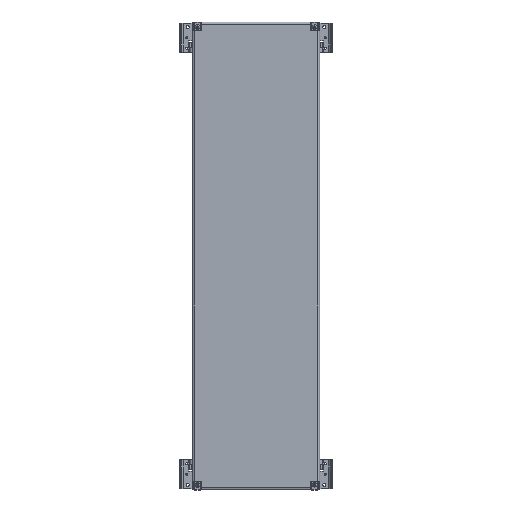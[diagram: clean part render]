
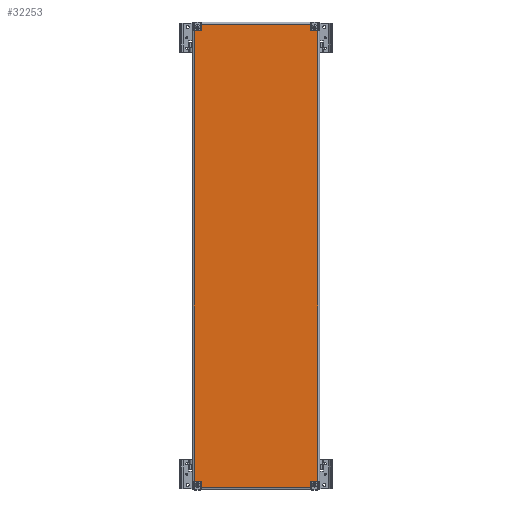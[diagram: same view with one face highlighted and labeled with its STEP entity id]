
A CAD part, top view. The second image highlights one B-rep face of the part: STEP entity #32253.
In plain terms, the highlighted planar face has unit normal (0, 0, 1).
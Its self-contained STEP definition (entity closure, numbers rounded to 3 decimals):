
#766 = DIRECTION ( 'NONE',  ( 0., 0., -1. ) ) ;
#1023 = LINE ( 'NONE', #22509, #11275 ) ;
#1085 = DIRECTION ( 'NONE',  ( 0., 0., -1. ) ) ;
#1129 = EDGE_CURVE ( 'NONE', #16821, #3109, #17129, .T. ) ;
#2136 = ORIENTED_EDGE ( 'NONE', *, *, #15787, .F. ) ;
#2155 = VECTOR ( 'NONE', #34763, 1000. ) ;
#3065 = CARTESIAN_POINT ( 'NONE',  ( 144.5, -528.5, 0. ) ) ;
#3109 = VERTEX_POINT ( 'NONE', #16320 ) ;
#3294 = AXIS2_PLACEMENT_3D ( 'NONE', #17046, #766, #38559 ) ;
#3816 = CARTESIAN_POINT ( 'NONE',  ( 129.5, -529.5, 0. ) ) ;
#3973 = PLANE ( 'NONE',  #9393 ) ;
#5278 = VECTOR ( 'NONE', #15899, 1000. ) ;
#5402 = DIRECTION ( 'NONE',  ( -1., 0., 0. ) ) ;
#5500 = CARTESIAN_POINT ( 'NONE',  ( -128.5, -544.5, 0. ) ) ;
#5744 = VERTEX_POINT ( 'NONE', #25431 ) ;
#6277 = ORIENTED_EDGE ( 'NONE', *, *, #32359, .F. ) ;
#7028 = CARTESIAN_POINT ( 'NONE',  ( -128.5, 544.5, 0. ) ) ;
#7230 = DIRECTION ( 'NONE',  ( -1., 0., 0. ) ) ;
#7415 = CARTESIAN_POINT ( 'NONE',  ( -129.5, -528.5, 0. ) ) ;
#7665 = ORIENTED_EDGE ( 'NONE', *, *, #29938, .T. ) ;
#7668 = CARTESIAN_POINT ( 'NONE',  ( 144.5, -528.5, 0. ) ) ;
#8296 = CARTESIAN_POINT ( 'NONE',  ( -128.5, 529.5, 0. ) ) ;
#8300 = DIRECTION ( 'NONE',  ( 0., -1., 0. ) ) ;
#9253 = CIRCLE ( 'NONE', #35607, 1. ) ;
#9393 = AXIS2_PLACEMENT_3D ( 'NONE', #29769, #38853, #10568 ) ;
#9492 = DIRECTION ( 'NONE',  ( 0., 1., 0. ) ) ;
#9585 = VECTOR ( 'NONE', #39007, 1000. ) ;
#9662 = CARTESIAN_POINT ( 'NONE',  ( -129.5, 529.5, 0. ) ) ;
#9698 = EDGE_CURVE ( 'NONE', #25880, #5744, #39602, .T. ) ;
#10003 = CIRCLE ( 'NONE', #25837, 1. ) ;
#10405 = DIRECTION ( 'NONE',  ( 0., 0., -1. ) ) ;
#10568 = DIRECTION ( 'NONE',  ( 1., 0., 0. ) ) ;
#10607 = DIRECTION ( 'NONE',  ( 1., 0., 0. ) ) ;
#10690 = DIRECTION ( 'NONE',  ( 0., -1., 0. ) ) ;
#11275 = VECTOR ( 'NONE', #7230, 1000. ) ;
#11988 = VECTOR ( 'NONE', #10690, 1000. ) ;
#12075 = EDGE_CURVE ( 'NONE', #25880, #14826, #32168, .T. ) ;
#13017 = EDGE_CURVE ( 'NONE', #18164, #19846, #16165, .T. ) ;
#13169 = EDGE_CURVE ( 'NONE', #32341, #19846, #37799, .T. ) ;
#13345 = EDGE_CURVE ( 'NONE', #32341, #5744, #27942, .T. ) ;
#13358 = VECTOR ( 'NONE', #32603, 1000. ) ;
#13601 = LINE ( 'NONE', #22720, #5278 ) ;
#13793 = ORIENTED_EDGE ( 'NONE', *, *, #38553, .T. ) ;
#13832 = FACE_OUTER_BOUND ( 'NONE', #37938, .T. ) ;
#13998 = DIRECTION ( 'NONE',  ( 1., 0., 0. ) ) ;
#14826 = VERTEX_POINT ( 'NONE', #19523 ) ;
#15105 = CARTESIAN_POINT ( 'NONE',  ( 128.5, -544.5, 0. ) ) ;
#15332 = VECTOR ( 'NONE', #5402, 1000. ) ;
#15414 = CARTESIAN_POINT ( 'NONE',  ( 129.5, -528.5, 0. ) ) ;
#15545 = CARTESIAN_POINT ( 'NONE',  ( 128.5, -549.5, 0. ) ) ;
#15787 = EDGE_CURVE ( 'NONE', #18164, #20061, #20881, .T. ) ;
#15899 = DIRECTION ( 'NONE',  ( 1., 0., 0. ) ) ;
#16165 = LINE ( 'NONE', #22179, #2155 ) ;
#16320 = CARTESIAN_POINT ( 'NONE',  ( 144.5, 528.5, 0. ) ) ;
#16821 = VERTEX_POINT ( 'NONE', #3065 ) ;
#17046 = CARTESIAN_POINT ( 'NONE',  ( -129.5, -529.5, 0. ) ) ;
#17129 = LINE ( 'NONE', #7668, #40822 ) ;
#17390 = CARTESIAN_POINT ( 'NONE',  ( 129.5, 529.5, 0. ) ) ;
#17482 = LINE ( 'NONE', #15545, #21427 ) ;
#17696 = VERTEX_POINT ( 'NONE', #38017 ) ;
#18164 = VERTEX_POINT ( 'NONE', #27619 ) ;
#19000 = ORIENTED_EDGE ( 'NONE', *, *, #34999, .F. ) ;
#19523 = CARTESIAN_POINT ( 'NONE',  ( -144.5, -528.5, 0. ) ) ;
#19846 = VERTEX_POINT ( 'NONE', #7028 ) ;
#19897 = EDGE_CURVE ( 'NONE', #40226, #23387, #39222, .T. ) ;
#20061 = VERTEX_POINT ( 'NONE', #20845 ) ;
#20261 = DIRECTION ( 'NONE',  ( 0., 1., 0. ) ) ;
#20688 = EDGE_CURVE ( 'NONE', #35228, #14826, #1023, .T. ) ;
#20726 = VERTEX_POINT ( 'NONE', #25422 ) ;
#20734 = EDGE_CURVE ( 'NONE', #20726, #3109, #13601, .T. ) ;
#20845 = CARTESIAN_POINT ( 'NONE',  ( 128.5, 529.5, 0. ) ) ;
#20881 = LINE ( 'NONE', #40459, #22315 ) ;
#21085 = CIRCLE ( 'NONE', #3294, 1. ) ;
#21427 = VECTOR ( 'NONE', #28188, 1000. ) ;
#22134 = VERTEX_POINT ( 'NONE', #30005 ) ;
#22179 = CARTESIAN_POINT ( 'NONE',  ( 128.5, 544.5, 0. ) ) ;
#22315 = VECTOR ( 'NONE', #8300, 1000. ) ;
#22350 = CARTESIAN_POINT ( 'NONE',  ( -144.5, 528.5, 0. ) ) ;
#22509 = CARTESIAN_POINT ( 'NONE',  ( -149.5, -528.5, 0. ) ) ;
#22720 = CARTESIAN_POINT ( 'NONE',  ( 149.5, 528.5, 0. ) ) ;
#22872 = EDGE_CURVE ( 'NONE', #40226, #22134, #38396, .T. ) ;
#23207 = DIRECTION ( 'NONE',  ( 1., 0., 0. ) ) ;
#23239 = ORIENTED_EDGE ( 'NONE', *, *, #39545, .T. ) ;
#23387 = VERTEX_POINT ( 'NONE', #15105 ) ;
#23868 = ORIENTED_EDGE ( 'NONE', *, *, #20688, .F. ) ;
#24729 = ORIENTED_EDGE ( 'NONE', *, *, #12075, .T. ) ;
#24797 = CARTESIAN_POINT ( 'NONE',  ( 149.5, -528.5, 0. ) ) ;
#25153 = DIRECTION ( 'NONE',  ( 1., 0., 0. ) ) ;
#25238 = ORIENTED_EDGE ( 'NONE', *, *, #13169, .F. ) ;
#25278 = VECTOR ( 'NONE', #9492, 1000. ) ;
#25422 = CARTESIAN_POINT ( 'NONE',  ( 129.5, 528.5, 0. ) ) ;
#25431 = CARTESIAN_POINT ( 'NONE',  ( -129.5, 528.5, 0. ) ) ;
#25837 = AXIS2_PLACEMENT_3D ( 'NONE', #3816, #10405, #23207 ) ;
#25880 = VERTEX_POINT ( 'NONE', #22350 ) ;
#27508 = LINE ( 'NONE', #24797, #15332 ) ;
#27619 = CARTESIAN_POINT ( 'NONE',  ( 128.5, 544.5, 0. ) ) ;
#27942 = CIRCLE ( 'NONE', #28638, 1. ) ;
#28188 = DIRECTION ( 'NONE',  ( 0., -1., 0. ) ) ;
#28510 = CARTESIAN_POINT ( 'NONE',  ( -128.5, 549.5, 0. ) ) ;
#28638 = AXIS2_PLACEMENT_3D ( 'NONE', #9662, #37563, #25153 ) ;
#29019 = VECTOR ( 'NONE', #13998, 1000. ) ;
#29740 = CARTESIAN_POINT ( 'NONE',  ( -128.5, -544.5, 0. ) ) ;
#29769 = CARTESIAN_POINT ( 'NONE',  ( 0., 0., 0. ) ) ;
#29938 = EDGE_CURVE ( 'NONE', #20726, #20061, #9253, .T. ) ;
#30001 = ORIENTED_EDGE ( 'NONE', *, *, #19897, .T. ) ;
#30005 = CARTESIAN_POINT ( 'NONE',  ( -128.5, -529.5, 0. ) ) ;
#30377 = VERTEX_POINT ( 'NONE', #15414 ) ;
#31463 = ORIENTED_EDGE ( 'NONE', *, *, #22872, .F. ) ;
#32168 = LINE ( 'NONE', #38985, #11988 ) ;
#32253 = ADVANCED_FACE ( 'NONE', ( #13832 ), #3973, .T. ) ;
#32341 = VERTEX_POINT ( 'NONE', #8296 ) ;
#32359 = EDGE_CURVE ( 'NONE', #16821, #30377, #27508, .T. ) ;
#32603 = DIRECTION ( 'NONE',  ( 1., 0., 0. ) ) ;
#34763 = DIRECTION ( 'NONE',  ( -1., 0., 0. ) ) ;
#34999 = EDGE_CURVE ( 'NONE', #17696, #23387, #17482, .T. ) ;
#35228 = VERTEX_POINT ( 'NONE', #7415 ) ;
#35607 = AXIS2_PLACEMENT_3D ( 'NONE', #17390, #1085, #10607 ) ;
#36106 = CARTESIAN_POINT ( 'NONE',  ( -128.5, -549.5, 0. ) ) ;
#36783 = ORIENTED_EDGE ( 'NONE', *, *, #13345, .T. ) ;
#37563 = DIRECTION ( 'NONE',  ( 0., 0., -1. ) ) ;
#37799 = LINE ( 'NONE', #28510, #25278 ) ;
#37938 = EDGE_LOOP ( 'NONE', ( #31463, #30001, #19000, #23239, #6277, #38946, #37990, #7665, #2136, #40464, #25238, #36783, #40257, #24729, #23868, #13793 ) ) ;
#37990 = ORIENTED_EDGE ( 'NONE', *, *, #20734, .F. ) ;
#38017 = CARTESIAN_POINT ( 'NONE',  ( 128.5, -529.5, 0. ) ) ;
#38396 = LINE ( 'NONE', #36106, #9585 ) ;
#38553 = EDGE_CURVE ( 'NONE', #35228, #22134, #21085, .T. ) ;
#38559 = DIRECTION ( 'NONE',  ( 1., 0., 0. ) ) ;
#38853 = DIRECTION ( 'NONE',  ( 0., 0., 1. ) ) ;
#38946 = ORIENTED_EDGE ( 'NONE', *, *, #1129, .T. ) ;
#38985 = CARTESIAN_POINT ( 'NONE',  ( -144.5, 528.5, 0. ) ) ;
#39007 = DIRECTION ( 'NONE',  ( 0., 1., 0. ) ) ;
#39222 = LINE ( 'NONE', #29740, #29019 ) ;
#39401 = CARTESIAN_POINT ( 'NONE',  ( -149.5, 528.5, 0. ) ) ;
#39545 = EDGE_CURVE ( 'NONE', #17696, #30377, #10003, .T. ) ;
#39602 = LINE ( 'NONE', #39401, #13358 ) ;
#40226 = VERTEX_POINT ( 'NONE', #5500 ) ;
#40257 = ORIENTED_EDGE ( 'NONE', *, *, #9698, .F. ) ;
#40459 = CARTESIAN_POINT ( 'NONE',  ( 128.5, 549.5, 0. ) ) ;
#40464 = ORIENTED_EDGE ( 'NONE', *, *, #13017, .T. ) ;
#40822 = VECTOR ( 'NONE', #20261, 1000. ) ;
